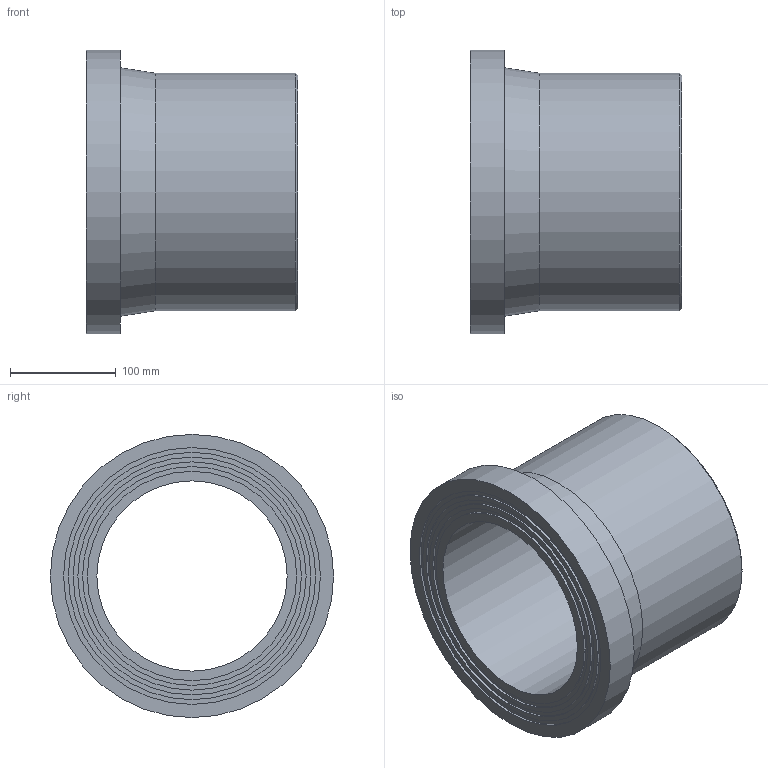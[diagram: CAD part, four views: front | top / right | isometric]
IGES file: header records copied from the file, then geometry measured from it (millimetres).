
Global section: file name: 490207225.ipt; native system: Autodesk Inventor 2015; preprocessor: unknown; author: Кирилл,,11,0; organization: 20170718.095537; date: 20190331.185825; units: millimetre
Bounding box: 200 x 268 x 268 mm (x, y, z)
Volume: 3431926.3 mm3; surface area: 326310.1 mm2
Topology: 1 solids, 1 shells, 20 faces, 33 edges, 22 vertices
Faces by surface type: plane 9, cylinder 5, revolution 4, cone 2
Full cylindrical faces by diameter (mm): 198 x1, 216 x1, 225 x1, 234 x1, 268 x1
